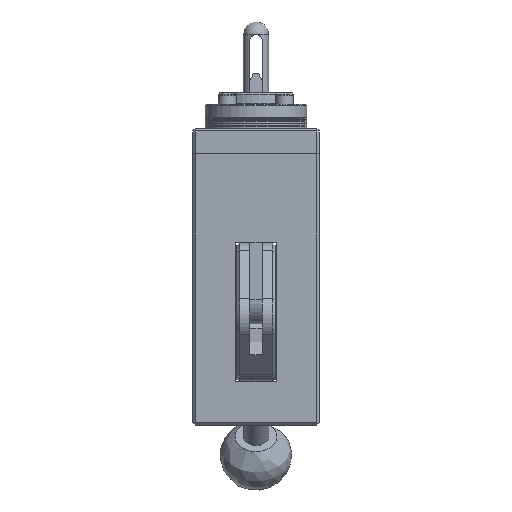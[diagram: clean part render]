
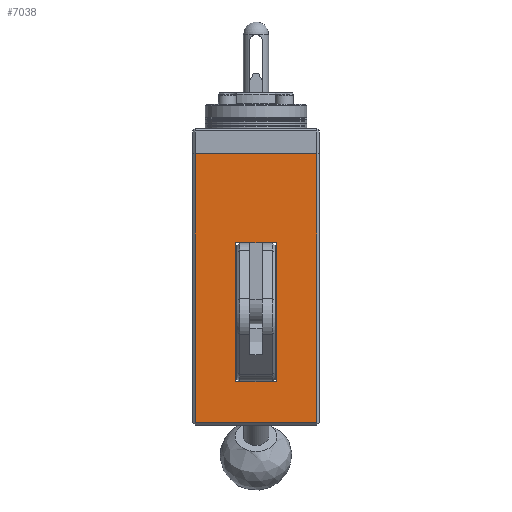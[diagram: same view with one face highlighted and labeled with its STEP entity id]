
A CAD part, left-side view. The second image highlights one B-rep face of the part: STEP entity #7038.
In plain terms, the highlighted planar face has unit normal (-1, 0, 0).
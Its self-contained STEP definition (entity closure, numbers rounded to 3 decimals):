
#234=FACE_BOUND('',#1142,.T.);
#430=PLANE('',#7766);
#706=FACE_OUTER_BOUND('',#1141,.T.);
#1141=EDGE_LOOP('',(#5352,#5353,#5354,#5355));
#1142=EDGE_LOOP('',(#5356,#5357,#5358,#5359));
#1537=LINE('',#10840,#2067);
#1544=LINE('',#10870,#2074);
#1570=LINE('',#10949,#2100);
#1573=LINE('',#10955,#2103);
#1615=LINE('',#11169,#2145);
#1623=LINE('',#11191,#2153);
#1635=LINE('',#11231,#2165);
#1636=LINE('',#11233,#2166);
#2067=VECTOR('',#8627,10.);
#2074=VECTOR('',#8656,10.);
#2100=VECTOR('',#8732,10.);
#2103=VECTOR('',#8737,10.);
#2145=VECTOR('',#8969,10.);
#2153=VECTOR('',#8991,10.);
#2165=VECTOR('',#9035,10.);
#2166=VECTOR('',#9038,10.);
#3061=VERTEX_POINT('',#10837);
#3062=VERTEX_POINT('',#10839);
#3073=VERTEX_POINT('',#10867);
#3074=VERTEX_POINT('',#10869);
#3102=VERTEX_POINT('',#10947);
#3104=VERTEX_POINT('',#10953);
#3181=VERTEX_POINT('',#11168);
#3188=VERTEX_POINT('',#11190);
#3827=EDGE_CURVE('',#3062,#3061,#1537,.T.);
#3841=EDGE_CURVE('',#3073,#3074,#1544,.T.);
#3878=EDGE_CURVE('',#3102,#3073,#1570,.T.);
#3881=EDGE_CURVE('',#3104,#3102,#1573,.T.);
#3984=EDGE_CURVE('',#3181,#3062,#1615,.T.);
#3994=EDGE_CURVE('',#3188,#3181,#1623,.T.);
#4012=EDGE_CURVE('',#3061,#3188,#1635,.T.);
#4013=EDGE_CURVE('',#3074,#3104,#1636,.T.);
#5352=ORIENTED_EDGE('',*,*,#3878,.F.);
#5353=ORIENTED_EDGE('',*,*,#3881,.F.);
#5354=ORIENTED_EDGE('',*,*,#4013,.F.);
#5355=ORIENTED_EDGE('',*,*,#3841,.F.);
#5356=ORIENTED_EDGE('',*,*,#3984,.T.);
#5357=ORIENTED_EDGE('',*,*,#3827,.T.);
#5358=ORIENTED_EDGE('',*,*,#4012,.T.);
#5359=ORIENTED_EDGE('',*,*,#3994,.T.);
#7038=ADVANCED_FACE('',(#706,#234),#430,.T.);
#7766=AXIS2_PLACEMENT_3D('',#11232,#9036,#9037);
#8627=DIRECTION('',(0.,0.,1.));
#8656=DIRECTION('',(0.,0.,1.));
#8732=DIRECTION('',(0.,1.,0.));
#8737=DIRECTION('',(0.,0.,-1.));
#8969=DIRECTION('',(0.,1.,0.));
#8991=DIRECTION('',(0.,0.,-1.));
#9035=DIRECTION('',(0.,-1.,0.));
#9036=DIRECTION('center_axis',(-1.,0.,0.));
#9037=DIRECTION('ref_axis',(0.,-1.,0.));
#9038=DIRECTION('',(0.,-1.,0.));
#10837=CARTESIAN_POINT('',(-36.509,7.434,18.5));
#10839=CARTESIAN_POINT('',(-36.509,7.434,-36.5));
#10840=CARTESIAN_POINT('',(-36.509,7.434,-45.));
#10867=CARTESIAN_POINT('',(-36.509,23.434,-52.5));
#10869=CARTESIAN_POINT('',(-36.509,23.434,53.5));
#10870=CARTESIAN_POINT('',(-36.509,23.434,-53.5));
#10947=CARTESIAN_POINT('',(-36.509,-24.566,-52.5));
#10949=CARTESIAN_POINT('',(-36.509,-6.816,-52.5));
#10953=CARTESIAN_POINT('',(-36.509,-24.566,53.5));
#10955=CARTESIAN_POINT('',(-36.509,-24.566,-53.5));
#11168=CARTESIAN_POINT('',(-36.509,-8.566,-36.5));
#11169=CARTESIAN_POINT('',(-36.509,-0.566,-36.5));
#11190=CARTESIAN_POINT('',(-36.509,-8.566,18.5));
#11191=CARTESIAN_POINT('',(-36.509,-8.566,-45.));
#11231=CARTESIAN_POINT('',(-36.509,-4.566,18.5));
#11232=CARTESIAN_POINT('Origin',(-36.509,-0.566,-53.5));
#11233=CARTESIAN_POINT('',(-36.509,-0.566,53.5));
